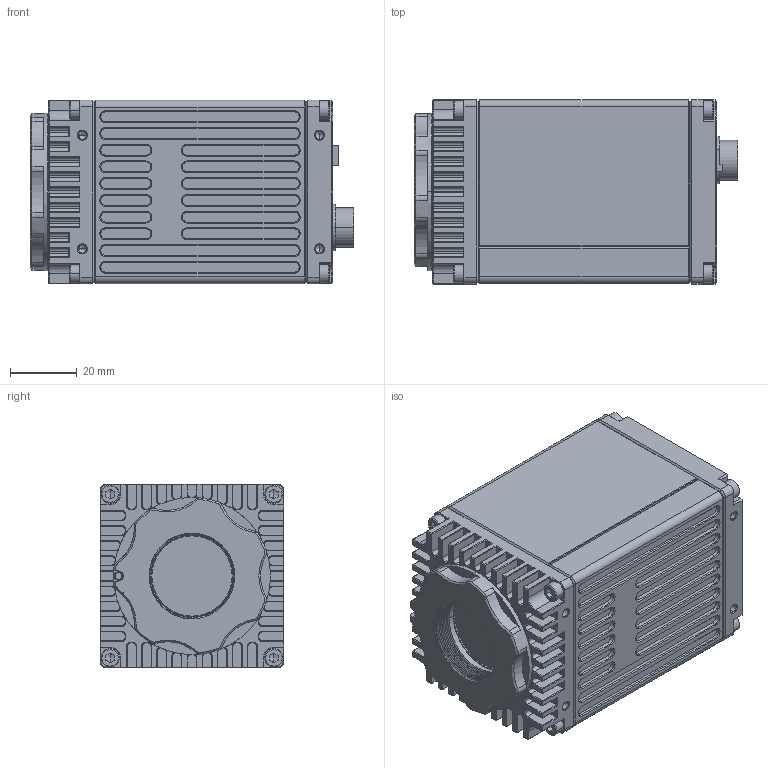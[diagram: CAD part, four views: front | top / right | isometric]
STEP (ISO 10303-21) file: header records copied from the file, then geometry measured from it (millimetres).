
FILE_DESCRIPTION((''),'2;1');
FILE_NAME('HG-T130SW','2025-03-26T',('MG'),(''),'CREO PARAMETRIC BY PTC INC, 2017300','CREO PARAMETRIC BY PTC INC, 2017300','');
FILE_SCHEMA(('CONFIG_CONTROL_DESIGN'));
Products named in the file (1): HG-T130SW
Bounding box: 96.79 x 55 x 55 mm (x, y, z)
Volume: 232040.8 mm3; surface area: 42939.7 mm2
Topology: 2 solids, 5 shells, 1704 faces, 4560 edges, 2887 vertices
Faces by surface type: plane 999, cylinder 430, cone 252, bspline 23
Entity records: 62854 total; most frequent: CARTESIAN_POINT 20211, ORIENTED_EDGE 9040, DIRECTION 8667, EDGE_CURVE 4520, VECTOR 3167, LINE 3167, VERTEX_POINT 2887, AXIS2_PLACEMENT_3D 2750
